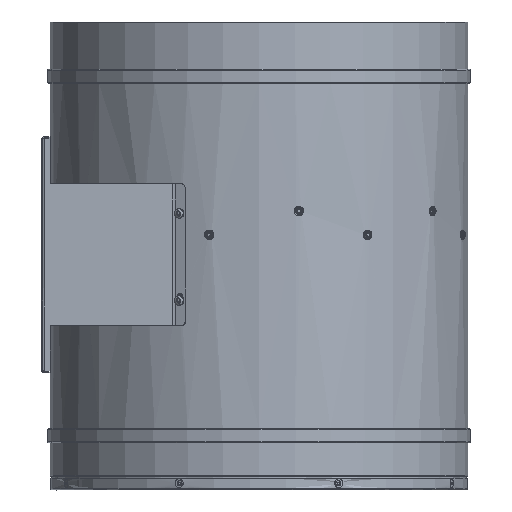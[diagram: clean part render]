
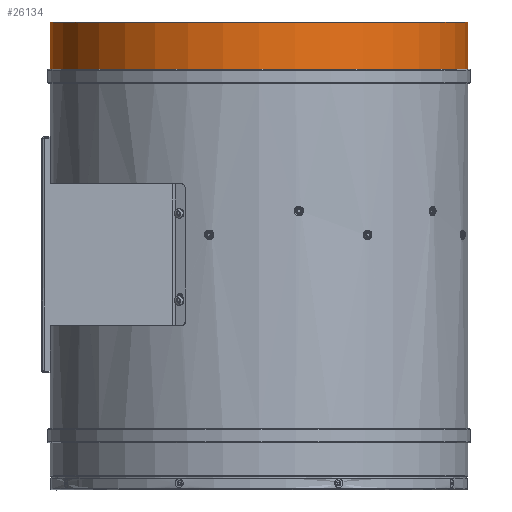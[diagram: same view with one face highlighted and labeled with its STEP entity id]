
A CAD part, left-side view. The second image highlights one B-rep face of the part: STEP entity #26134.
In plain terms, the highlighted cylindrical face has radius 176.75 mm (diameter 353.5 mm), a partial arc.
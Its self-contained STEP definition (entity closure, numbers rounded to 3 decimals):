
#1725 = CARTESIAN_POINT ( 'NONE',  ( -3.298, 176.588, 157.466 ) ) ;
#1850 = CARTESIAN_POINT ( 'NONE',  ( -3.298, -176.912, 157.466 ) ) ;
#2021 = ORIENTED_EDGE ( 'NONE', *, *, #11533, .T. ) ;
#2033 = ORIENTED_EDGE ( 'NONE', *, *, #11863, .F. ) ;
#2253 = ORIENTED_EDGE ( 'NONE', *, *, #11810, .T. ) ;
#2282 = ORIENTED_EDGE ( 'NONE', *, *, #11695, .F. ) ;
#3136 = CARTESIAN_POINT ( 'NONE',  ( -3.298, -0.162, 157.466 ) ) ;
#3427 = DIRECTION ( 'NONE',  ( 0., 0., -1. ) ) ;
#4172 = DIRECTION ( 'NONE',  ( 0., -1., 0. ) ) ;
#6937 = AXIS2_PLACEMENT_3D ( 'NONE', #3136, #3427, #4172 ) ;
#7522 = AXIS2_PLACEMENT_3D ( 'NONE', #23403, #23158, #23687 ) ;
#8357 = VERTEX_POINT ( 'NONE', #1850 ) ;
#8382 = VERTEX_POINT ( 'NONE', #1725 ) ;
#8659 = VERTEX_POINT ( 'NONE', #15765 ) ;
#8935 = VERTEX_POINT ( 'NONE', #15920 ) ;
#9282 = CIRCLE ( 'NONE', #7522, 176.75 ) ;
#9592 = LINE ( 'NONE', #18117, #9826 ) ;
#9642 = CIRCLE ( 'NONE', #6937, 176.75 ) ;
#9826 = VECTOR ( 'NONE', #18118, 1000. ) ;
#10355 = VECTOR ( 'NONE', #18208, 1000. ) ;
#10547 = LINE ( 'NONE', #18106, #10355 ) ;
#11533 = EDGE_CURVE ( 'NONE', #8935, #8659, #9282, .T. ) ;
#11695 = EDGE_CURVE ( 'NONE', #8357, #8382, #9642, .T. ) ;
#11810 = EDGE_CURVE ( 'NONE', #8659, #8382, #9592, .T. ) ;
#11863 = EDGE_CURVE ( 'NONE', #8935, #8357, #10547, .T. ) ;
#15765 = CARTESIAN_POINT ( 'NONE',  ( -3.298, 176.588, 197.466 ) ) ;
#15920 = CARTESIAN_POINT ( 'NONE',  ( -3.298, -176.912, 197.466 ) ) ;
#18106 = CARTESIAN_POINT ( 'NONE',  ( -3.298, -176.912, -166.284 ) ) ;
#18117 = CARTESIAN_POINT ( 'NONE',  ( -3.298, 176.588, -166.284 ) ) ;
#18118 = DIRECTION ( 'NONE',  ( 0., 0., -1. ) ) ;
#18208 = DIRECTION ( 'NONE',  ( 0., 0., -1. ) ) ;
#21265 = DIRECTION ( 'NONE',  ( 0., -1., 0. ) ) ;
#21378 = DIRECTION ( 'NONE',  ( 0., 0., -1. ) ) ;
#21379 = CARTESIAN_POINT ( 'NONE',  ( -3.298, -0.162, -166.284 ) ) ;
#21989 = CYLINDRICAL_SURFACE ( 'NONE', #23718, 176.75 ) ;
#22148 = FACE_OUTER_BOUND ( 'NONE', #27564, .T. ) ;
#23158 = DIRECTION ( 'NONE',  ( 0., 0., -1. ) ) ;
#23403 = CARTESIAN_POINT ( 'NONE',  ( -3.298, -0.162, 197.466 ) ) ;
#23687 = DIRECTION ( 'NONE',  ( 0., -1., 0. ) ) ;
#23718 = AXIS2_PLACEMENT_3D ( 'NONE', #21379, #21378, #21265 ) ;
#26134 = ADVANCED_FACE ( 'NONE', ( #22148 ), #21989, .T. ) ;
#27564 = EDGE_LOOP ( 'NONE', ( #2021, #2253, #2282, #2033 ) ) ;
